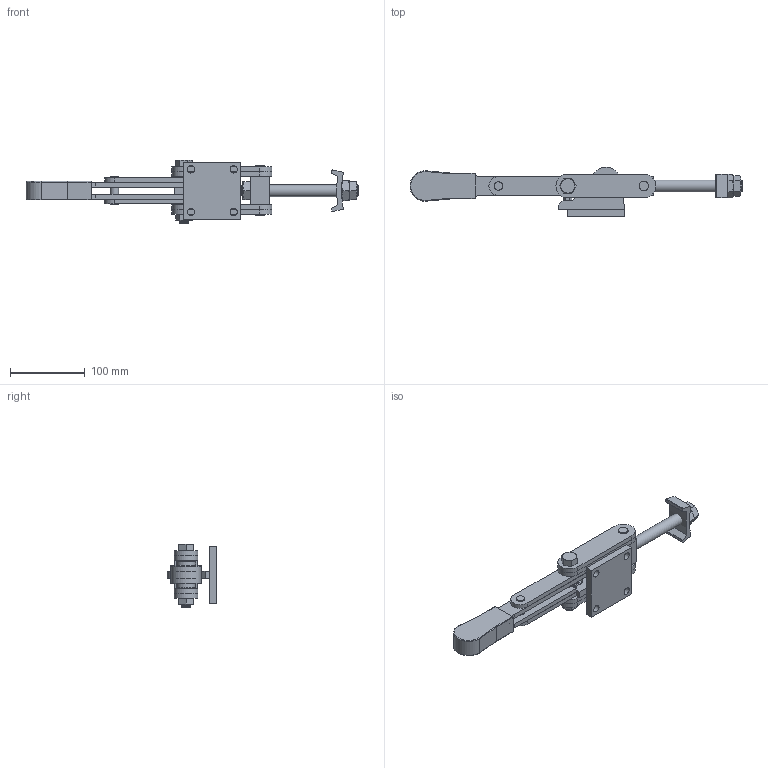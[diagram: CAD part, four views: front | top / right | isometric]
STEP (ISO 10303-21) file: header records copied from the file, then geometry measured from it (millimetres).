
FILE_DESCRIPTION((' '),'2;1');
FILE_NAME('C:\Users\Nick\Desktop\PCR-Series\PCR-8000\3D\PCR-8000.stp','2015-07-24T11:08:06',(' '),(' '),' ','ACIS',' ');
FILE_SCHEMA(('CONFIG_CONTROL_DESIGN'));
Length unit declared in the file: inch
Products named in the file (29): C:\Users\Nick\Desktop\PCR-Series\PCR-8000\3D\PCR-8000.stp; Body1; Body2; Body3; Body4; Body5; Body6; Body7; Body8; Body9; Body10; Body11; Body12; Body13; Body14; Body15; Body16; Body17; Body18; Body19; Body20; Body21; Body22; Body23; Body24; Body25; Body26; Body27; Body28
Assembly tree (28 placements, depth 2):
  C:\Users\Nick\Desktop\PCR-Series\PCR-8000\3D\PCR-8000.stp
    Body1
    Body2
    Body3
    Body4
    Body5
    Body6
    Body7
    Body8
    Body9
    Body10
    Body11
    Body12
    Body13
    Body14
    Body15
    Body16
    Body17
    Body18
    Body19
    Body20
    Body21
    Body22
    Body23
    Body24
    Body25
    Body26
    Body27
    Body28
Bounding box: 443.53 x 66.62 x 85.45 mm (x, y, z)
Volume: 495237.3 mm3; surface area: 173715.7 mm2
Topology: 28 solids, 28 shells, 337 faces, 727 edges, 450 vertices
Faces by surface type: plane 151, cone 96, cylinder 88, torus 2
Full cylindrical faces by diameter (mm): 3.776 x1, 3.81 x1, 4.826 x1, 7.925 x1, 9.652 x2, 9.906 x4, 11.007 x1, 11.1 x2, 11.176 x4, 12.573 x2, 12.7 x10, 12.751 x8, 12.827 x1, 13.487 x3, 14.012 x3, 15.875 x1, 19.05 x1, 22.225 x2
Entity records: 12951 total; most frequent: CARTESIAN_POINT 1805, DIRECTION 1567, ORIENTED_EDGE 1298, AXIS2_PLACEMENT_3D 660, EDGE_CURVE 649, EDGE_LOOP 491, VERTEX_POINT 450, FACE_OUTER_BOUND 337
